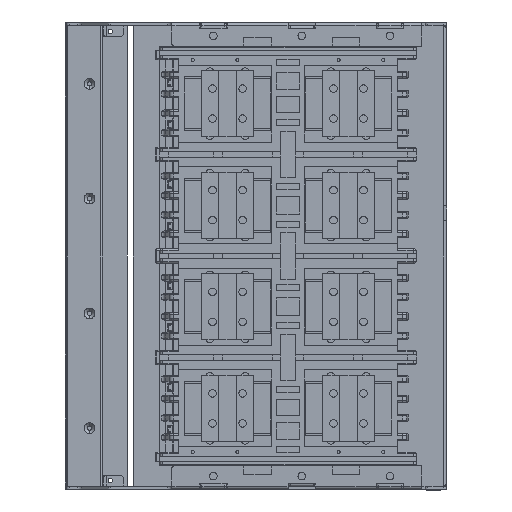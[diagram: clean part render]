
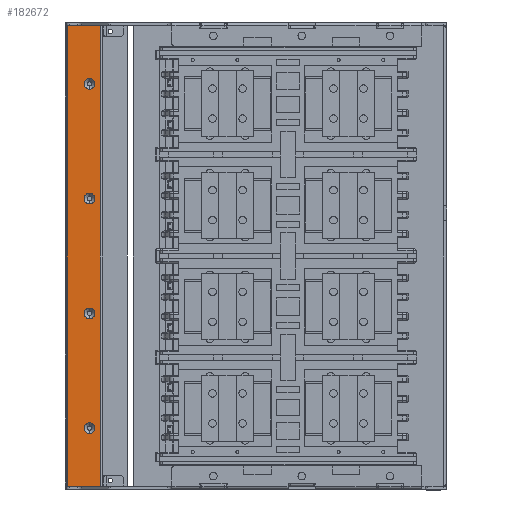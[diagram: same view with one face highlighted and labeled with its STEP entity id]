
A CAD part, left-side view. The second image highlights one B-rep face of the part: STEP entity #182672.
In plain terms, the highlighted planar face has unit normal (-1, 0, 0).
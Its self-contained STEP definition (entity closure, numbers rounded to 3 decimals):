
#349 = VECTOR ( 'NONE', #152836, 1000. ) ;
#591 = DIRECTION ( 'NONE',  ( 1., 0., 0. ) ) ;
#1506 = CIRCLE ( 'NONE', #106077, 6.1 ) ;
#4653 = ORIENTED_EDGE ( 'NONE', *, *, #163408, .T. ) ;
#6588 = FACE_BOUND ( 'NONE', #138450, .T. ) ;
#7947 = CARTESIAN_POINT ( 'NONE',  ( 294.756, 591.613, 147.288 ) ) ;
#11836 = AXIS2_PLACEMENT_3D ( 'NONE', #144843, #47488, #87630 ) ;
#12893 = CARTESIAN_POINT ( 'NONE',  ( 294.756, 616.613, 349.188 ) ) ;
#14411 = AXIS2_PLACEMENT_3D ( 'NONE', #203599, #163476, #106178 ) ;
#16574 = DIRECTION ( 'NONE',  ( 0., 1., 0. ) ) ;
#16899 = ORIENTED_EDGE ( 'NONE', *, *, #136560, .T. ) ;
#20289 = DIRECTION ( 'NONE',  ( 0., 0., -1. ) ) ;
#21572 = ORIENTED_EDGE ( 'NONE', *, *, #138351, .T. ) ;
#23791 = EDGE_LOOP ( 'NONE', ( #135727, #113449, #115768, #151819 ) ) ;
#24991 = DIRECTION ( 'NONE',  ( 0., 0., -1. ) ) ;
#30874 = VECTOR ( 'NONE', #33388, 1000. ) ;
#31775 = DIRECTION ( 'NONE',  ( 1., 0., 0. ) ) ;
#32171 = CIRCLE ( 'NONE', #69718, 6.1 ) ;
#33388 = DIRECTION ( 'NONE',  ( 0., -1., 0. ) ) ;
#34165 = CARTESIAN_POINT ( 'NONE',  ( 294.756, 617.613, -172.412 ) ) ;
#40029 = CARTESIAN_POINT ( 'NONE',  ( 294.756, 591.613, -106.612 ) ) ;
#42327 = CIRCLE ( 'NONE', #57487, 6.1 ) ;
#47488 = DIRECTION ( 'NONE',  ( 1., 0., 0. ) ) ;
#52077 = VERTEX_POINT ( 'NONE', #64421 ) ;
#54194 = EDGE_LOOP ( 'NONE', ( #16899, #88480 ) ) ;
#54759 = EDGE_CURVE ( 'NONE', #112458, #138190, #189877, .T. ) ;
#55899 = PLANE ( 'NONE',  #95215 ) ;
#57487 = AXIS2_PLACEMENT_3D ( 'NONE', #40029, #591, #20289 ) ;
#64421 = CARTESIAN_POINT ( 'NONE',  ( 294.756, 579.413, -172.412 ) ) ;
#69718 = AXIS2_PLACEMENT_3D ( 'NONE', #121423, #141901, #141100 ) ;
#70903 = FACE_BOUND ( 'NONE', #54194, .T. ) ;
#74460 = DIRECTION ( 'NONE',  ( 0., 0., -1. ) ) ;
#74959 = EDGE_CURVE ( 'NONE', #52077, #138190, #210328, .T. ) ;
#75560 = CARTESIAN_POINT ( 'NONE',  ( 294.756, 617.613, 349.188 ) ) ;
#76093 = ORIENTED_EDGE ( 'NONE', *, *, #220618, .T. ) ;
#80940 = CARTESIAN_POINT ( 'NONE',  ( 294.756, 591.613, 283.388 ) ) ;
#83127 = VECTOR ( 'NONE', #74460, 1000. ) ;
#84878 = CARTESIAN_POINT ( 'NONE',  ( 294.756, 579.413, 349.188 ) ) ;
#87630 = DIRECTION ( 'NONE',  ( 0., 0., -1. ) ) ;
#88480 = ORIENTED_EDGE ( 'NONE', *, *, #91830, .T. ) ;
#90015 = VERTEX_POINT ( 'NONE', #182444 ) ;
#91830 = EDGE_CURVE ( 'NONE', #147996, #105947, #42327, .T. ) ;
#94025 = EDGE_CURVE ( 'NONE', #193765, #52077, #144093, .T. ) ;
#95215 = AXIS2_PLACEMENT_3D ( 'NONE', #75560, #231044, #16574 ) ;
#98717 = CARTESIAN_POINT ( 'NONE',  ( 294.756, 591.613, -100.512 ) ) ;
#103369 = CARTESIAN_POINT ( 'NONE',  ( 294.756, 591.613, 283.388 ) ) ;
#105947 = VERTEX_POINT ( 'NONE', #98717 ) ;
#106077 = AXIS2_PLACEMENT_3D ( 'NONE', #188007, #31775, #206874 ) ;
#106178 = DIRECTION ( 'NONE',  ( 0., 0., -1. ) ) ;
#111181 = CARTESIAN_POINT ( 'NONE',  ( 294.756, 591.613, 277.288 ) ) ;
#112458 = VERTEX_POINT ( 'NONE', #241706 ) ;
#113449 = ORIENTED_EDGE ( 'NONE', *, *, #207642, .T. ) ;
#115768 = ORIENTED_EDGE ( 'NONE', *, *, #94025, .T. ) ;
#116319 = ORIENTED_EDGE ( 'NONE', *, *, #134055, .T. ) ;
#118515 = DIRECTION ( 'NONE',  ( 0., 0., -1. ) ) ;
#120557 = VERTEX_POINT ( 'NONE', #7947 ) ;
#121423 = CARTESIAN_POINT ( 'NONE',  ( 294.756, 591.613, 153.388 ) ) ;
#126355 = EDGE_LOOP ( 'NONE', ( #186279, #4653 ) ) ;
#129027 = CARTESIAN_POINT ( 'NONE',  ( 294.756, 617.613, 349.188 ) ) ;
#134055 = EDGE_CURVE ( 'NONE', #228737, #90015, #202705, .T. ) ;
#135727 = ORIENTED_EDGE ( 'NONE', *, *, #54759, .F. ) ;
#136560 = EDGE_CURVE ( 'NONE', #105947, #147996, #174460, .T. ) ;
#137463 = EDGE_CURVE ( 'NONE', #155751, #225328, #145877, .T. ) ;
#138190 = VERTEX_POINT ( 'NONE', #84878 ) ;
#138351 = EDGE_CURVE ( 'NONE', #149447, #120557, #1506, .T. ) ;
#138450 = EDGE_LOOP ( 'NONE', ( #21572, #76093 ) ) ;
#140075 = CIRCLE ( 'NONE', #14411, 6.1 ) ;
#141100 = DIRECTION ( 'NONE',  ( 0., 0., -1. ) ) ;
#141901 = DIRECTION ( 'NONE',  ( 1., 0., 0. ) ) ;
#142711 = DIRECTION ( 'NONE',  ( 0., 0., -1. ) ) ;
#142834 = DIRECTION ( 'NONE',  ( 1., 0., 0. ) ) ;
#144093 = LINE ( 'NONE', #34165, #349 ) ;
#144843 = CARTESIAN_POINT ( 'NONE',  ( 294.756, 591.613, 23.388 ) ) ;
#145877 = CIRCLE ( 'NONE', #178296, 6.1 ) ;
#146415 = DIRECTION ( 'NONE',  ( 0., 0., 1. ) ) ;
#147996 = VERTEX_POINT ( 'NONE', #161670 ) ;
#149184 = CARTESIAN_POINT ( 'NONE',  ( 294.756, 591.613, 159.488 ) ) ;
#149447 = VERTEX_POINT ( 'NONE', #149184 ) ;
#151103 = ORIENTED_EDGE ( 'NONE', *, *, #204466, .T. ) ;
#151819 = ORIENTED_EDGE ( 'NONE', *, *, #74959, .T. ) ;
#152836 = DIRECTION ( 'NONE',  ( 0., -1., 0. ) ) ;
#155418 = CARTESIAN_POINT ( 'NONE',  ( 294.756, 591.613, 289.488 ) ) ;
#155751 = VERTEX_POINT ( 'NONE', #155418 ) ;
#159448 = DIRECTION ( 'NONE',  ( 1., 0., 0. ) ) ;
#161670 = CARTESIAN_POINT ( 'NONE',  ( 294.756, 591.613, -112.712 ) ) ;
#163408 = EDGE_CURVE ( 'NONE', #225328, #155751, #252158, .T. ) ;
#163476 = DIRECTION ( 'NONE',  ( 1., 0., 0. ) ) ;
#165796 = FACE_BOUND ( 'NONE', #167265, .T. ) ;
#167265 = EDGE_LOOP ( 'NONE', ( #151103, #116319 ) ) ;
#167441 = VECTOR ( 'NONE', #146415, 1000. ) ;
#174460 = CIRCLE ( 'NONE', #248363, 6.1 ) ;
#174695 = LINE ( 'NONE', #12893, #83127 ) ;
#174768 = FACE_OUTER_BOUND ( 'NONE', #23791, .T. ) ;
#178296 = AXIS2_PLACEMENT_3D ( 'NONE', #80940, #159448, #118515 ) ;
#182444 = CARTESIAN_POINT ( 'NONE',  ( 294.756, 591.613, 29.488 ) ) ;
#182672 = ADVANCED_FACE ( 'NONE', ( #174768, #223870, #6588, #165796, #70903 ), #55899, .F. ) ;
#186279 = ORIENTED_EDGE ( 'NONE', *, *, #137463, .T. ) ;
#188007 = CARTESIAN_POINT ( 'NONE',  ( 294.756, 591.613, 153.388 ) ) ;
#189877 = LINE ( 'NONE', #129027, #30874 ) ;
#193765 = VERTEX_POINT ( 'NONE', #249434 ) ;
#201755 = CARTESIAN_POINT ( 'NONE',  ( 294.756, 591.613, -106.612 ) ) ;
#202705 = CIRCLE ( 'NONE', #11836, 6.1 ) ;
#203599 = CARTESIAN_POINT ( 'NONE',  ( 294.756, 591.613, 23.388 ) ) ;
#204466 = EDGE_CURVE ( 'NONE', #90015, #228737, #140075, .T. ) ;
#205380 = CARTESIAN_POINT ( 'NONE',  ( 294.756, 579.413, 349.188 ) ) ;
#206874 = DIRECTION ( 'NONE',  ( 0., 0., -1. ) ) ;
#207642 = EDGE_CURVE ( 'NONE', #112458, #193765, #174695, .T. ) ;
#210328 = LINE ( 'NONE', #205380, #167441 ) ;
#220618 = EDGE_CURVE ( 'NONE', #120557, #149447, #32171, .T. ) ;
#221513 = CARTESIAN_POINT ( 'NONE',  ( 294.756, 591.613, 17.288 ) ) ;
#223870 = FACE_BOUND ( 'NONE', #126355, .T. ) ;
#225034 = AXIS2_PLACEMENT_3D ( 'NONE', #103369, #238469, #142711 ) ;
#225328 = VERTEX_POINT ( 'NONE', #111181 ) ;
#228737 = VERTEX_POINT ( 'NONE', #221513 ) ;
#231044 = DIRECTION ( 'NONE',  ( 1., 0., 0. ) ) ;
#238469 = DIRECTION ( 'NONE',  ( 1., 0., 0. ) ) ;
#241706 = CARTESIAN_POINT ( 'NONE',  ( 294.756, 616.613, 349.188 ) ) ;
#248363 = AXIS2_PLACEMENT_3D ( 'NONE', #201755, #142834, #24991 ) ;
#249434 = CARTESIAN_POINT ( 'NONE',  ( 294.756, 616.613, -172.412 ) ) ;
#252158 = CIRCLE ( 'NONE', #225034, 6.1 ) ;
